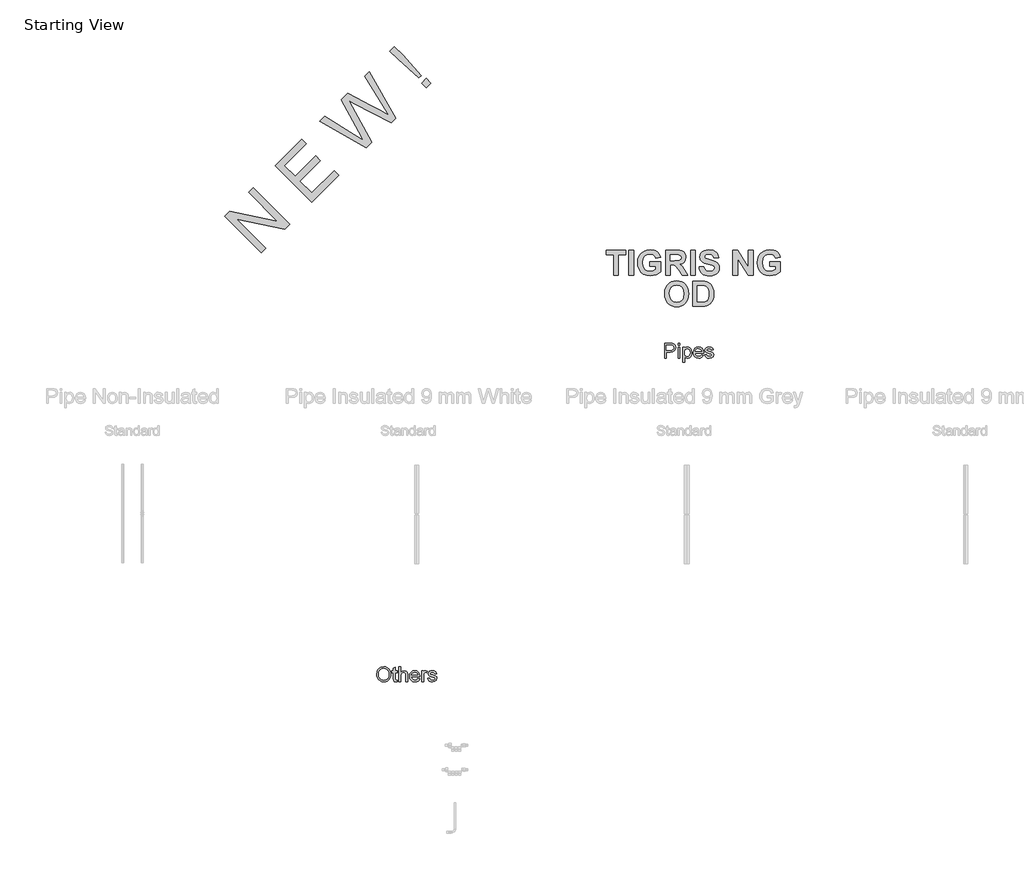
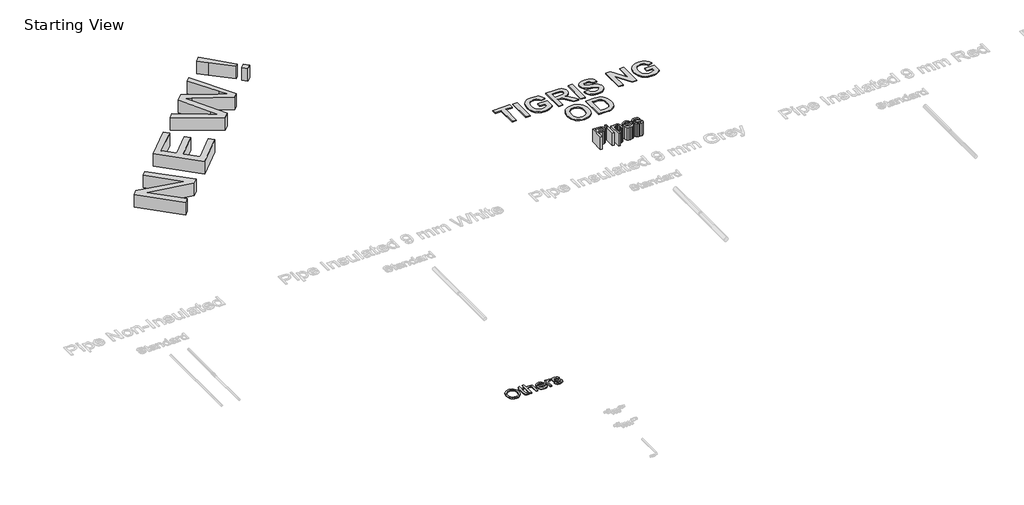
# One storey, part 2 of 2: 4 proxies.
"""IFC4 building model written with IfcOpenShell, lengths in millimetres."""

from ifc_helpers import new_model, si_unit, origin, origin_with_axes, place, context, project, spatial, polyline, outline, extrude, element, save

model = new_model("IFC4")

# Units and contexts
model_context = context("Model", 3, world=origin())
ifc_project = project(units=[si_unit("LENGTHUNIT", "METRE", prefix="MILLI")], contexts=[model_context])

# Site, building, storey
site = spatial("IfcSite", under=ifc_project)
building = spatial("IfcBuilding", under=site)
storey = spatial("IfcBuildingStorey", under=building, Name="Starting View", Elevation=0.0)

# Proxies
placement = place(None, origin())
element("IfcBuildingElementProxy", 1, Name="Rockwell 500", ObjectType="Rockwell 500", at=placement, inside=storey, context=model_context, shape_type="SweptSolid", body=[
    extrude(outline(polyline([(10654.5922116, 16115.063404), (10284.4464697, 16485.2091459), (10333.9679215, 16534.7305977), (10820.5975163, 16434.8743856), (10527.3546128, 16728.1172891), (10573.6228306, 16774.3855068), (10943.7685725, 16404.2397649), (10894.2471207, 16354.7183131), (10407.5271583, 16454.6648928), (10700.8604293, 16161.3316218), (10654.5922116, 16115.063404)])), origin_with_axes(), (0.0, 0.0, 1.0), 150.0),
    extrude(outline(polyline([(11169.326134, 16629.7973264), (10799.180392, 16999.9430683), (11065.222644, 17265.9853203), (11111.4908618, 17219.7171026), (10891.7168275, 16999.9430683), (11001.6038446, 16890.0560512), (11209.8108245, 17098.263031), (11256.0790422, 17051.9948133), (11047.8720624, 16843.7878334), (11169.326134, 16722.3337619), (11394.8836954, 16947.8913233), (11441.1519132, 16901.6231056), (11169.326134, 16629.7973264)])), origin_with_axes(), (0.0, 0.0, 1.0), 150.0),
    extrude(outline(polyline([(11721.3818804, 17181.8530728), (11250.295515, 17451.0581913), (11298.0096145, 17498.7722908), (11599.8374412, 17314.0608903), (11693.00645, 17257.0389266), (11645.9249237, 17342.7977912), (11467.3585209, 17668.1211971), (11536.1282742, 17736.8909505), (11772.0781112, 17607.5748966), (11862.6942349, 17562.6396011), (11947.4816475, 17511.5141242), (11892.0863009, 17601.9721046), (11705.7482834, 17906.5109596), (11753.4623829, 17954.2250592), (12022.5771338, 17483.0483262), (11973.1460496, 17433.617242), (11598.8433975, 17630.4379026), (11546.6109173, 17657.9096569), (11580.6795073, 17596.0078421), (11777.2290651, 17237.7002575), (11721.3818804, 17181.8530728)])), origin_with_axes(), (0.0, 0.0, 1.0), 150.0),
    extrude(outline(polyline([(12256.6292508, 17890.6062598), (12045.2594046, 18078.8419972), (11961.6693628, 18162.432039), (12007.9375805, 18208.7002568), (12091.5276223, 18125.1102149), (12279.7633597, 17913.7403687), (12256.6292508, 17890.6062598)])), origin_with_axes(), (0.0, 0.0, 1.0), 150.0),
    extrude(outline(polyline([(12331.8151047, 17792.2862971), (12285.5468869, 17838.5545148), (12331.8151047, 17884.8227326), (12378.0833224, 17838.5545148), (12331.8151047, 17792.2862971)])), origin_with_axes(), (0.0, 0.0, 1.0), 150.0),
])
element("IfcBuildingElementProxy", 2, Name="Arial 150", ObjectType="Arial 150", at=placement, inside=storey, context=model_context, shape_type="SweptSolid", body=[
    extrude(outline(polyline([(14749.010926, 15047.0305597), (14749.010926, 15197.7150249), (14804.8554128, 15197.7150249), (14827.3697909, 15196.2802851), (14845.6719202, 15189.2353449), (14857.5361145, 15174.6672179), (14862.0242749, 15154.1210085), (14858.993847, 15136.3615051), (14849.9025631, 15121.5634519), (14832.9018164, 15111.5754557), (14806.1429998, 15108.2461237), (14767.8464841, 15108.2461237), (14767.8464841, 15047.0305597), (14749.010926, 15047.0305597)]), holes=[polyline([(14767.8464841, 15127.0816818), (14807.2466458, 15127.0816818), (14823.9484884, 15128.8107272), (14834.9849482, 15133.9978633), (14841.1377746, 15142.3211935), (14843.1887167, 15153.4588209), (14838.3510685, 15169.0570175), (14825.6407456, 15177.5918797), (14806.8051874, 15178.8794667), (14767.8464841, 15178.8794667), (14767.8464841, 15127.0816818)])]), origin_with_axes(), (0.0, 0.0, 1.0), 150.0),
    extrude(outline(polyline([(14885.5687226, 15047.0305597), (14885.5687226, 15157.6894638), (14904.4042807, 15157.6894638), (14904.4042807, 15047.0305597), (14885.5687226, 15047.0305597)])), origin_with_axes(), (0.0, 0.0, 1.0), 150.0),
    extrude(outline(polyline([(14885.5687226, 15178.8794667), (14885.5687226, 15197.7150249), (14904.4042807, 15197.7150249), (14904.4042807, 15178.8794667), (14885.5687226, 15178.8794667)])), origin_with_axes(), (0.0, 0.0, 1.0), 150.0),
    extrude(outline(polyline([(14932.657618, 15004.6505538), (14932.657618, 15157.6894638), (14951.4931761, 15157.6894638), (14951.4931761, 15139.2217876), (14964.5161987, 15154.8383783), (14982.1009581, 15160.0439086), (14994.8388722, 15158.2228927), (15005.9764996, 15152.7598451), (15015.0447908, 15143.9858595), (15021.5746962, 15132.2320297), (15026.8354087, 15103.2061403), (15025.3500852, 15087.0975075), (15020.8941145, 15072.6903288), (15013.610051, 15060.7157699), (15003.6404489, 15051.9049961), (14992.0291735, 15046.4833352), (14979.8200897, 15044.6761149), (14963.4309469, 15049.5137631), (14951.4931761, 15061.7458395), (14951.4931761, 15004.6505538), (14932.657618, 15004.6505538)]), holes=[polyline([(14951.4931761, 15101.4770949), (14953.5303227, 15084.5913114), (14959.6417623, 15072.7822993), (14968.6594697, 15065.8293296), (14979.4154195, 15063.511673), (14990.3461133, 15065.9121031), (14999.593747, 15073.1133931), (15005.8983247, 15085.3546665), (15007.9998506, 15102.8750465), (15005.9489085, 15119.6688596), (14999.7960821, 15131.6434185), (14990.7921703, 15138.8171175), (14980.1879717, 15141.2083504), (14969.5423865, 15138.6653661), (14960.1935853, 15131.0364133), (14953.6682784, 15118.5606151), (14951.4931761, 15101.4770949)])]), origin_with_axes(), (0.0, 0.0, 1.0), 150.0),
    extrude(outline(polyline([(15125.5013598, 15079.9927864), (15143.969036, 15077.6383417), (15137.3149704, 15063.7232052), (15126.6969763, 15053.3213418), (15112.354177, 15046.8374216), (15094.5256958, 15044.6761149), (15072.425185, 15048.4055186), (15055.4198398, 15059.5937298), (15044.5765179, 15077.5141815), (15040.9620773, 15101.4403067), (15044.6133061, 15126.1711739), (15055.5669926, 15144.6664412), (15072.3424115, 15156.1995417), (15093.4588381, 15160.0439086), (15113.9176755, 15156.2087388), (15130.2654317, 15144.7032294), (15140.9845933, 15126.2447503), (15144.5576472, 15101.5506713), (15144.4472826, 15096.4738998), (15059.7976355, 15096.4738998), (15063.0579897, 15082.3748223), (15070.6317603, 15072.0097471), (15081.562454, 15065.6361916), (15094.8935778, 15063.511673), (15113.361254, 15067.4480104), (15125.5013598, 15079.9927864)]), holes=[polyline([(15059.7976355, 15115.309458), (15125.722089, 15115.309458), (15123.1745062, 15125.2606659), (15118.1805081, 15132.3791825), (15107.1992306, 15139.0010584), (15093.3852617, 15141.2083504), (15080.6887343, 15139.4471154), (15070.1903019, 15134.1634102), (15062.8924428, 15125.927452), (15059.7976355, 15115.309458)])]), origin_with_axes(), (0.0, 0.0, 1.0), 150.0),
    extrude(outline(polyline([(15156.329871, 15079.9927864), (15175.1654292, 15082.3472312), (15178.1360763, 15074.2906155), (15183.8842325, 15068.3677154), (15203.8602248, 15063.511673), (15223.063665, 15067.9630452), (15229.3176589, 15078.4108938), (15227.7449633, 15083.2117539), (15223.0268768, 15086.8721797), (15203.6394956, 15092.2432569), (15175.2757938, 15101.4587008), (15162.8965646, 15112.2192492), (15158.6843158, 15127.4127756), (15162.0688302, 15141.4474737), (15171.3026682, 15152.1712339), (15183.2772272, 15157.7446461), (15199.4824291, 15160.0439086), (15222.4014774, 15156.3466945), (15236.9696044, 15146.3403043), (15243.4443275, 15129.4361266), (15224.6087693, 15127.0816818), (15217.5270409, 15137.4743482), (15200.953957, 15141.2083504), (15182.9277393, 15137.6398951), (15177.519874, 15129.325762), (15179.7639541, 15123.8443202), (15186.7905002, 15119.6872537), (15203.0140962, 15115.67734), (15230.6604282, 15106.8113839), (15243.4995098, 15096.7682054), (15248.153217, 15080.3974566), (15242.6901694, 15062.3712389), (15226.9264259, 15049.2930339), (15203.6027074, 15044.6761149), (15184.6107994, 15046.901801), (15170.7508452, 15053.5788592), (15161.4986131, 15064.6337131), (15156.329871, 15079.9927864)])), origin_with_axes(), (0.0, 0.0, 1.0), 150.0),
])
element("IfcBuildingElementProxy", 3, Name="Arial 150", ObjectType="Arial 150", at=placement, inside=storey, context=model_context, shape_type="SweptSolid", body=[
    extrude(outline(polyline([(11827.3008988, 11835.6689998), (11832.322488, 11868.9899116), (11838.5994745, 11882.6084432), (11847.3872557, 11894.1990253), (11870.3890775, 11910.0639363), (11899.2218288, 11915.35224), (11918.986289, 11912.8690365), (11936.7090041, 11905.4194261), (11951.4242839, 11893.5276406), (11962.1664382, 11877.7179119), (11968.7331318, 11858.753595), (11970.9220297, 11837.3980452), (11968.6181687, 11815.7573869), (11961.7065857, 11796.5263556), (11950.5689583, 11780.6890357), (11935.586964, 11769.2295115), (11918.0160003, 11762.2765418), (11899.1114642, 11759.9588852), (11879.0435014, 11762.5202636), (11861.2196187, 11770.2043988), (11846.5411271, 11782.3169135), (11835.9093375, 11798.1634304), (11829.4530084, 11816.3965818), (11827.3008988, 11835.6689998)]), holes=[polyline([(11846.1364569, 11835.4850588), (11849.9026488, 11811.91302), (11861.2012246, 11793.9511816), (11878.1835772, 11782.5836279), (11899.0010996, 11778.7944434), (11920.1221247, 11782.6204161), (11937.1320684, 11794.0983344), (11948.3478708, 11812.6119958), (11952.0864715, 11837.545198), (11950.4861849, 11854.2194495), (11945.6853248, 11868.6312266), (11937.8080516, 11880.417246), (11926.9785254, 11889.2142242), (11913.914116, 11894.6910674), (11899.3321934, 11896.5166818), (11879.0710925, 11892.9988103), (11861.8450181, 11882.4451955), (11850.0635972, 11863.6694182), (11846.1364569, 11835.4850588)])]), origin_with_axes(), (0.0, 0.0, 1.0), 10.0),
    extrude(outline(polyline([(12034.4920385, 11778.0218912), (12036.8464832, 11761.761507), (12022.7566028, 11759.9588852), (12006.9744652, 11763.0858822), (11999.1017905, 11771.2896507), (11996.8209221, 11792.6635946), (11996.8209221, 11854.136676), (11982.6942535, 11854.136676), (11982.6942535, 11872.9722342), (11996.8209221, 11872.9722342), (11996.8209221, 11899.864408), (12015.6564803, 11910.9376561), (12015.6564803, 11872.9722342), (12034.4920385, 11872.9722342), (12034.4920385, 11854.136676), (12015.6564803, 11854.136676), (12015.6564803, 11793.2154176), (12016.6497617, 11783.5033329), (12019.8687291, 11780.0636363), (12026.28827, 11778.7944434), (12034.4920385, 11778.0218912)])), origin_with_axes(), (0.0, 0.0, 1.0), 10.0),
    extrude(outline(polyline([(12053.3275966, 11762.31333), (12053.3275966, 11912.9977952), (12072.1631548, 11912.9977952), (12072.1631548, 11857.5947668), (12086.8508434, 11870.8937009), (12104.9414405, 11875.3266789), (12126.0946552, 11870.4890307), (12138.9337369, 11857.1165202), (12142.7964978, 11832.3580619), (12142.7964978, 11762.31333), (12123.9609397, 11762.31333), (12123.9609397, 11830.4082873), (12122.4618205, 11842.1989053), (12117.9644632, 11850.2739151), (12110.7171879, 11854.9368193), (12100.968315, 11856.4911208), (12085.5356653, 11852.297266), (12075.2349694, 11840.9297124), (12072.1631548, 11821.1008728), (12072.1631548, 11762.31333), (12053.3275966, 11762.31333)])), origin_with_axes(), (0.0, 0.0, 1.0), 10.0),
    extrude(outline(polyline([(12246.1713385, 11795.2755568), (12264.6390146, 11792.921112), (12257.984949, 11779.0059755), (12247.366955, 11768.6041121), (12233.0241557, 11762.120192), (12215.1956745, 11759.9588852), (12193.0951636, 11763.688289), (12176.0898184, 11774.8765001), (12165.2464966, 11792.7969518), (12161.632056, 11816.7230771), (12165.2832848, 11841.4539442), (12176.2369712, 11859.9492115), (12193.0123902, 11871.4823121), (12214.1288167, 11875.3266789), (12234.5876542, 11871.4915091), (12250.9354103, 11859.9859997), (12261.6545719, 11841.5275206), (12265.2276258, 11816.8334417), (12265.1172612, 11811.7566702), (12180.4676141, 11811.7566702), (12183.7279683, 11797.6575927), (12191.3017389, 11787.2925175), (12202.2324327, 11780.9189619), (12215.5635565, 11778.7944434), (12234.0312326, 11782.7307807), (12246.1713385, 11795.2755568)]), holes=[polyline([(12180.4676141, 11830.5922283), (12246.3920677, 11830.5922283), (12243.8444849, 11840.5434363), (12238.8504868, 11847.6619529), (12227.8692092, 11854.2838288), (12214.0552403, 11856.4911208), (12201.3587129, 11854.7298857), (12190.8602805, 11849.4461806), (12183.5624214, 11841.2102224), (12180.4676141, 11830.5922283)])]), origin_with_axes(), (0.0, 0.0, 1.0), 10.0),
    extrude(outline(polyline([(12284.063184, 11762.31333), (12284.063184, 11872.9722342), (12300.5442974, 11872.9722342), (12300.5442974, 11856.6014854), (12312.2429448, 11871.6846472), (12324.0151687, 11875.3266789), (12342.9243032, 11869.5141434), (12336.6335211, 11852.6283598), (12323.3897693, 11856.4911208), (12312.7395855, 11852.7755126), (12305.9521627, 11842.4748168), (12302.8987421, 11820.4754734), (12302.8987421, 11762.31333), (12284.063184, 11762.31333)])), origin_with_axes(), (0.0, 0.0, 1.0), 10.0),
    extrude(outline(polyline([(12347.6331927, 11795.2755568), (12366.4687509, 11797.6300015), (12369.439398, 11789.5733858), (12375.1875542, 11783.6504857), (12395.1635465, 11778.7944434), (12414.3669867, 11783.2458155), (12420.6209806, 11793.6936642), (12419.0482851, 11798.4945242), (12414.3301985, 11802.1549501), (12394.9428173, 11807.5260272), (12366.5791155, 11816.7414712), (12354.1998864, 11827.5020196), (12349.9876375, 11842.695546), (12353.3721519, 11856.7302441), (12362.6059899, 11867.4540042), (12374.5805489, 11873.0274165), (12390.7857508, 11875.3266789), (12413.7047991, 11871.6294649), (12428.2729261, 11861.6230746), (12434.7476492, 11844.7188969), (12415.912091, 11842.3644522), (12408.8303626, 11852.7571185), (12392.2572788, 11856.4911208), (12374.231061, 11852.9226654), (12368.8231957, 11844.6085323), (12371.0672758, 11839.1270906), (12378.0938219, 11834.9700241), (12394.3174179, 11830.9601103), (12421.9637499, 11822.0941542), (12434.8028315, 11812.0509758), (12439.4565387, 11795.680227), (12433.9934911, 11777.6540092), (12418.2297476, 11764.5758043), (12394.9060291, 11759.9588852), (12375.9141211, 11762.1845713), (12362.054167, 11768.8616295), (12352.8019348, 11779.9164835), (12347.6331927, 11795.2755568)])), origin_with_axes(), (0.0, 0.0, 1.0), 10.0),
])
element("IfcBuildingElementProxy", 4, Name="Arial 250", ObjectType="Arial 250", at=placement, inside=storey, context=model_context, shape_type="SweptSolid", body=[
    extrude(outline(polyline([(14232.3796777, 15886.3302721), (14232.3796777, 16096.8599896), (14159.5040063, 16096.8599896), (14159.5040063, 16141.3951221), (14353.8391301, 16141.3951221), (14353.8391301, 16096.8599896), (14280.9634587, 16096.8599896), (14280.9634587, 15886.3302721), (14232.3796777, 15886.3302721)])), origin_with_axes(), (0.0, 0.0, 1.0), 10.0),
    extrude(outline(polyline([(14386.2283174, 15886.3302721), (14386.2283174, 16141.3951221), (14434.8120983, 16141.3951221), (14434.8120983, 15886.3302721), (14386.2283174, 15886.3302721)])), origin_with_axes(), (0.0, 0.0, 1.0), 10.0),
    extrude(outline(polyline([(14600.8066833, 15979.4491856), (14600.8066833, 16023.9843182), (14710.1201904, 16023.9843182), (14710.1201904, 15922.2620268), (14690.6044398, 15907.3405433), (14663.9402944, 15894.3326788), (14633.5121712, 15885.2943875), (14602.7044872, 15882.2816237), (14565.8712757, 15886.4726074), (14534.0672446, 15899.0455586), (14508.4152613, 15919.4074134), (14490.0381931, 15946.9651081), (14478.9834851, 15979.4887232), (14475.2985825, 16014.748339), (14479.4658436, 16052.2695044), (14491.9676271, 16085.3782757), (14512.5034473, 16112.68293), (14540.7728185, 16132.7917443), (14568.2593456, 16142.280764), (14601.7555852, 16145.4437705), (14643.9580004, 16140.3355149), (14661.1746406, 16133.9501954), (14675.8015691, 16125.0107481), (14697.7132971, 16100.6714125), (14710.1201904, 16068.5194507), (14661.5364094, 16060.4221539), (14653.3600375, 16077.2256263), (14640.2177451, 16090.0595255), (14622.6472436, 16098.1963599), (14601.186244, 16100.908638), (14569.382213, 16095.610602), (14556.1964293, 16088.988057), (14544.8214669, 16079.716494), (14535.6606091, 16067.8354505), (14529.1171393, 16053.3844643), (14523.8823634, 16016.7726632), (14529.0855092, 15977.4169539), (14535.5894415, 15961.9557824), (14544.6949467, 15949.305733), (14555.9117587, 15939.4668057), (14568.7496116, 15932.4390004), (14599.2884401, 15926.8167563), (14632.7214196, 15932.9846191), (14661.5364094, 15947.9456402), (14661.5364094, 15979.4491856), (14600.8066833, 15979.4491856)])), origin_with_axes(), (0.0, 0.0, 1.0), 10.0),
    extrude(outline(polyline([(14758.7039713, 15886.3302721), (14758.7039713, 16141.3951221), (14865.9931543, 16141.3951221), (14900.9443769, 16139.6712835), (14924.8250765, 16134.4997678), (14941.3359708, 16124.9158579), (14954.1777775, 16109.9548368), (14962.4332247, 16091.0242425), (14965.1850404, 16069.5316128), (14961.2075596, 16043.1995831), (14949.2751173, 16021.8967338), (14929.4193436, 16006.587782), (14901.6718684, 15998.2374447), (14927.1657014, 15976.9820405), (14954.2410376, 15935.7996949), (14985.4282824, 15886.3302721), (14928.6839445, 15886.3302721), (14891.7400278, 15944.5928532), (14862.7352575, 15979.164515), (14846.1611031, 15988.9382053), (14818.4215354, 15991.5951309), (14807.2877523, 15991.5951309), (14807.2877523, 15886.3302721), (14758.7039713, 15886.3302721)]), holes=[polyline([(14807.2877523, 16036.1302634), (14847.3314155, 16036.1302634), (14895.9468265, 16039.0718595), (14911.1292581, 16049.1934805), (14916.6012594, 16067.1277278), (14914.7983457, 16078.048008), (14909.3896044, 16086.6434784), (14900.6913364, 16092.7085435), (14889.0198421, 16096.0376079), (14849.5455201, 16096.8599896), (14807.2877523, 16096.8599896), (14807.2877523, 16036.1302634)])]), origin_with_axes(), (0.0, 0.0, 1.0), 10.0),
    extrude(outline(polyline([(15013.7688213, 15886.3302721), (15013.7688213, 16141.3951221), (15062.3526023, 16141.3951221), (15062.3526023, 15886.3302721), (15013.7688213, 15886.3302721)])), origin_with_axes(), (0.0, 0.0, 1.0), 10.0),
    extrude(outline(polyline([(15098.790438, 15971.3518888), (15147.3742189, 15975.4005372), (15154.4593537, 15953.6706821), (15166.3522584, 15938.5831407), (15183.1320082, 15929.7583524), (15204.8776784, 15926.8167563), (15227.4457303, 15929.4183292), (15243.656139, 15937.2230479), (15253.4298293, 15948.5070738), (15256.6877261, 15961.5465684), (15251.2789848, 15976.76063), (15232.3325755, 15987.6730027), (15190.2013279, 15998.4904852), (15154.2379432, 16009.6717134), (15130.8633246, 16023.3517169), (15112.8816323, 16046.6472603), (15106.8877348, 16074.5291632), (15109.6395505, 16093.3174222), (15117.8949977, 16110.8404786), (15131.3377756, 16125.7224246), (15149.6515837, 16136.5873521), (15172.5359362, 16143.2296659), (15199.6903477, 16145.4437705), (15241.6555373, 16139.9243241), (15258.1960848, 16133.025016), (15271.7752674, 16123.3659847), (15282.4365765, 16111.4058661), (15290.2235033, 16097.6032961), (15295.1360478, 16081.9582749), (15297.1742102, 16064.4708023), (15248.5904293, 16064.4708023), (15243.2212256, 16081.1635695), (15233.9457088, 16092.4001503), (15219.9098672, 16098.7815161), (15200.2596888, 16100.908638), (15179.5736259, 16098.6470883), (15163.9483734, 16091.8624392), (15157.5907302, 16085.0619751), (15155.4715158, 16076.3004469), (15157.4009498, 16068.0291847), (15163.1892518, 16061.0547552), (15179.9927242, 16052.8862907), (15210.7925007, 16044.4489707), (15243.6640465, 16035.6716275), (15266.6828269, 16026.4830934), (15282.8141604, 16015.3572177), (15295.0233657, 16000.7678499), (15302.7094717, 15982.533117), (15305.271507, 15960.4711462), (15302.2429282, 15939.4055224), (15293.1571919, 15919.7316215), (15278.5282865, 15903.1890972), (15258.8702006, 15891.5176029), (15233.9694314, 15884.5906185), (15203.6124758, 15882.2816237), (15180.9099961, 15883.7029998), (15161.0067773, 15887.967128), (15143.9028192, 15895.0740084), (15129.598122, 15905.023641), (15117.9938416, 15917.6974129), (15108.9911342, 15932.9767116), (15102.5899996, 15950.8615369), (15098.790438, 15971.3518888)])), origin_with_axes(), (0.0, 0.0, 1.0), 10.0),
    extrude(outline(polyline([(15442.9255531, 15886.3302721), (15442.9255531, 16141.3951221), (15493.8499589, 16141.3951221), (15600.8228411, 15969.7071254), (15600.8228411, 16141.3951221), (15649.4066221, 16141.3951221), (15649.4066221, 15886.3302721), (15596.900713, 15886.3302721), (15491.509334, 16055.4878636), (15491.509334, 15886.3302721), (15442.9255531, 15886.3302721)])), origin_with_axes(), (0.0, 0.0, 1.0), 10.0),
    extrude(outline(polyline([(15815.401207, 15979.4491856), (15815.401207, 16023.9843182), (15924.7147142, 16023.9843182), (15924.7147142, 15922.2620268), (15905.1989636, 15907.3405433), (15878.5348182, 15894.3326788), (15848.106695, 15885.2943875), (15817.299011, 15882.2816237), (15780.4657994, 15886.4726074), (15748.6617683, 15899.0455586), (15723.009785, 15919.4074134), (15704.6327169, 15946.9651081), (15693.5780089, 15979.4887232), (15689.8931062, 16014.748339), (15694.0603674, 16052.2695044), (15706.5621509, 16085.3782757), (15727.097971, 16112.68293), (15755.3673423, 16132.7917443), (15782.8538694, 16142.280764), (15816.350109, 16145.4437705), (15858.5525242, 16140.3355149), (15875.7691643, 16133.9501954), (15890.3960928, 16125.0107481), (15912.3078209, 16100.6714125), (15924.7147142, 16068.5194507), (15876.1309332, 16060.4221539), (15867.9545612, 16077.2256263), (15854.8122689, 16090.0595255), (15837.2417674, 16098.1963599), (15815.7807678, 16100.908638), (15783.9767367, 16095.610602), (15770.7909531, 16088.988057), (15759.4159907, 16079.716494), (15750.2551329, 16067.8354505), (15743.7116631, 16053.3844643), (15738.4768872, 16016.7726632), (15743.680033, 15977.4169539), (15750.1839652, 15961.9557824), (15759.2894704, 15949.305733), (15770.5062825, 15939.4668057), (15783.3441354, 15932.4390004), (15813.8829639, 15926.8167563), (15847.3159433, 15932.9846191), (15876.1309332, 15947.9456402), (15876.1309332, 15979.4491856), (15815.401207, 15979.4491856)])), origin_with_axes(), (0.0, 0.0, 1.0), 10.0),
    extrude(outline(polyline([(14750.6066745, 15697.5028192), (14753.4691955, 15733.2764236), (14762.0567583, 15762.7872749), (14772.1546568, 15781.2196957), (14785.3681167, 15797.6752374), (14800.8431264, 15811.1417379), (14817.725674, 15820.607035), (14842.9348364, 15828.1508057), (14871.7498262, 15830.6653959), (14898.0423184, 15828.4848983), (14921.5671797, 15821.9434053), (14942.3244104, 15811.040917), (14960.3140103, 15795.7774334), (14974.8440717, 15776.6313593), (14985.222687, 15754.0810993), (14991.4498562, 15728.1266535), (14993.5255793, 15698.7680219), (14991.4656712, 15669.609055), (14985.2859471, 15643.8107827), (14974.986407, 15621.3732048), (14960.5670508, 15602.2963214), (14942.6960637, 15587.0743523), (14922.0416307, 15576.2015172), (14898.603752, 15569.6778161), (14872.3824276, 15567.5032491), (14845.88434, 15569.6679318), (14822.2487734, 15576.1619796), (14801.4757277, 15586.9853927), (14783.565203, 15602.1381711), (14769.1458468, 15621.0865573), (14758.8463066, 15643.2967941), (14752.6665825, 15668.7688814), (14750.6066745, 15697.5028192)]), holes=[polyline([(14799.1904555, 15699.2741029), (14804.3540637, 15661.5236195), (14810.808574, 15646.5507371), (14819.8448884, 15634.1794277), (14843.2906746, 15617.5736432), (14872.3191674, 15612.0383817), (14901.2844001, 15617.5341056), (14924.5404059, 15634.0212773), (14933.4660151, 15646.3866562), (14939.8414502, 15661.4998969), (14944.9417983, 15699.9699644), (14939.975878, 15737.8627831), (14933.7684776, 15752.6814689), (14925.078117, 15764.748339), (14901.956539, 15780.7847823), (14872.3191674, 15786.1302634), (14842.6185357, 15780.7215222), (14819.3071773, 15764.4952984), (14810.5061115, 15752.3058619), (14804.2196359, 15737.3725171), (14799.1904555, 15699.2741029)])]), origin_with_axes(), (0.0, 0.0, 1.0), 10.0),
    extrude(outline(polyline([(15034.0120634, 15826.6167475), (15128.4594396, 15826.6167475), (15156.6101981, 15825.39899), (15177.1697409, 15821.7457174), (15198.0772143, 15812.5492758), (15215.758421, 15798.2445786), (15229.9049679, 15779.4879496), (15240.2084618, 15756.9357127), (15246.4949374, 15729.6310585), (15248.5904293, 15696.6171774), (15246.6293652, 15667.3277365), (15240.746173, 15642.3399846), (15229.0746787, 15617.1624523), (15213.2912759, 15597.298771), (15197.5078731, 15585.6905369), (15176.9799605, 15576.9290087), (15157.005574, 15572.8961753), (15131.2428854, 15571.5518975), (15034.0120634, 15571.5518975), (15034.0120634, 15826.6167475)]), holes=[polyline([(15082.5958443, 15782.081615), (15082.5958443, 15616.0870301), (15123.9679703, 15616.0870301), (15157.49584, 15618.4909151), (15179.8582964, 15628.8972067), (15187.9318707, 15638.6313594), (15194.3764966, 15653.094207), (15198.5991104, 15672.9895183), (15200.0066483, 15699.0210624), (15198.5991104, 15724.6888607), (15194.3764966, 15743.6194551), (15187.6313851, 15757.4734239), (15178.6563539, 15767.9113455), (15167.1983626, 15775.2178907), (15153.0043706, 15779.67773), (15107.5203361, 15782.081615), (15082.5958443, 15782.081615)])]), origin_with_axes(), (0.0, 0.0, 1.0), 10.0),
])

save(model, "model.ifc")
